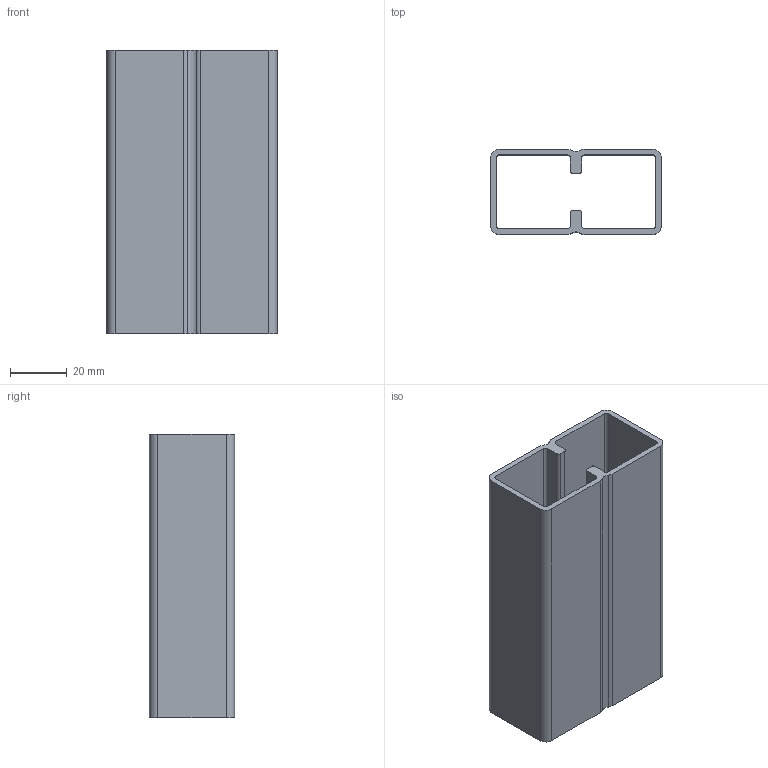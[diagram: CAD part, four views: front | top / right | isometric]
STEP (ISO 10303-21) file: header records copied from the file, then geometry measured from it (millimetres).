
FILE_DESCRIPTION (( 'STEP AP203' ), '1' );
FILE_NAME ('013.030.013.STEP', '2020-09-18T14:23:03', ( '' ), ( '' ), 'SwSTEP 2.0', 'SolidWorks 2018', '' );
FILE_SCHEMA (( 'CONFIG_CONTROL_DESIGN' ));
Length unit declared in the file: millimetre
Products named in the file (1): 013.030.013
Bounding box: 60 x 30 x 100 mm (x, y, z)
Volume: 38382.4 mm3; surface area: 36800.4 mm2
Topology: 1 solids, 1 shells, 42 faces, 120 edges, 80 vertices
Faces by surface type: cylinder 22, plane 20
Entity records: 1469 total; most frequent: DIRECTION 250, CARTESIAN_POINT 243, ORIENTED_EDGE 240, EDGE_CURVE 120, AXIS2_PLACEMENT_3D 87, VERTEX_POINT 80, LINE 76, VECTOR 76
